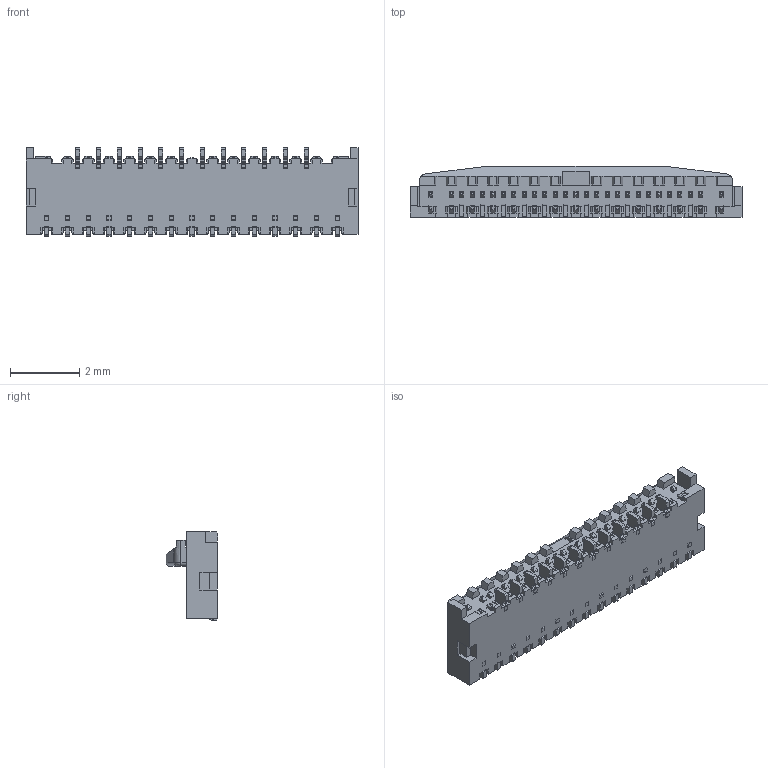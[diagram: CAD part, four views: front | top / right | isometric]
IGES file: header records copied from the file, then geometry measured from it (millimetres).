
Start section: SolidWorks IGES file using analytic representation for surfaces
Global section: file name: C:\Users\83197\OneDrive - I-PEX\デスクトップ\Exported\20599-025E-01C LK TYPE ACT OPEN IGES R1 ALL.IGS; native system: SolidWorks 2023; preprocessor: SolidWorks 2023; author: 83197; date: 251117.134233; units: millimetre
Bounding box: 9.6 x 1.5 x 2.55 mm (x, y, z)
Surface area: 91.4 mm2 (no closed solid volume)
Topology: 0 solids, 0 shells, 1544 faces, 9244 edges, 9242 vertices
Faces by surface type: bspline 1297, revolution 247
